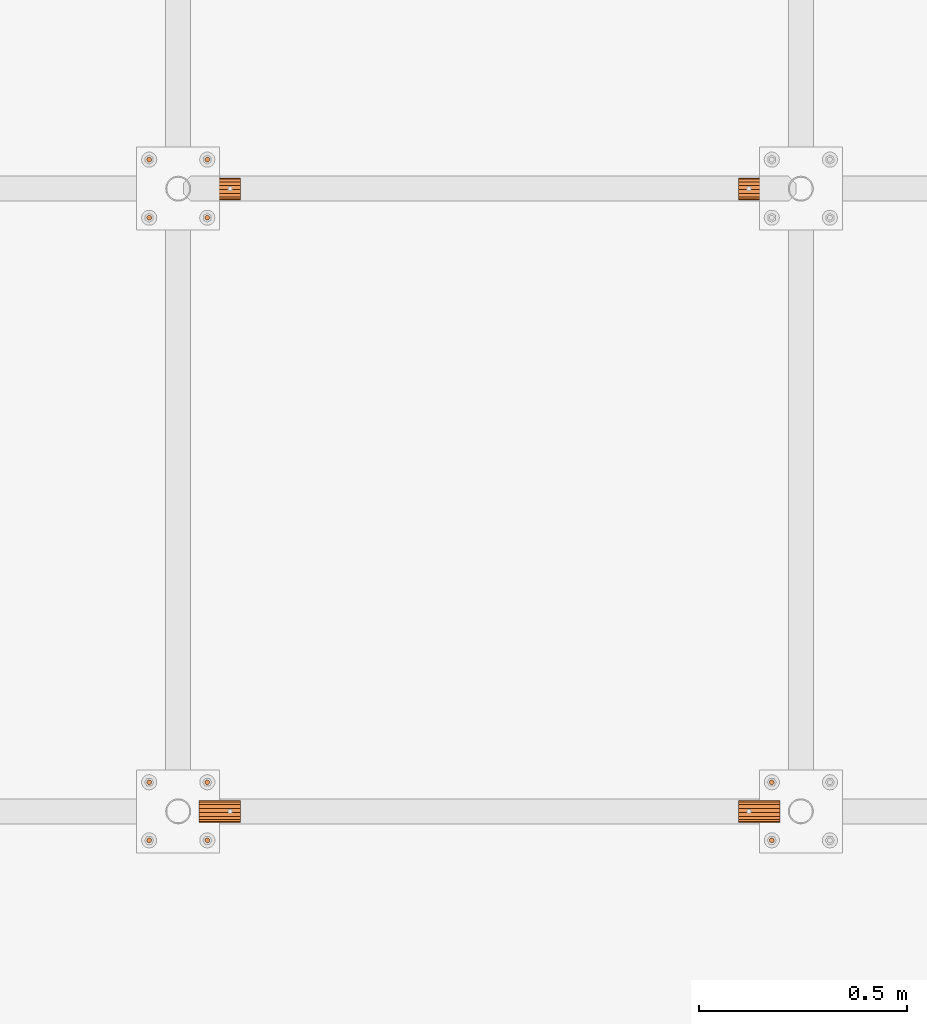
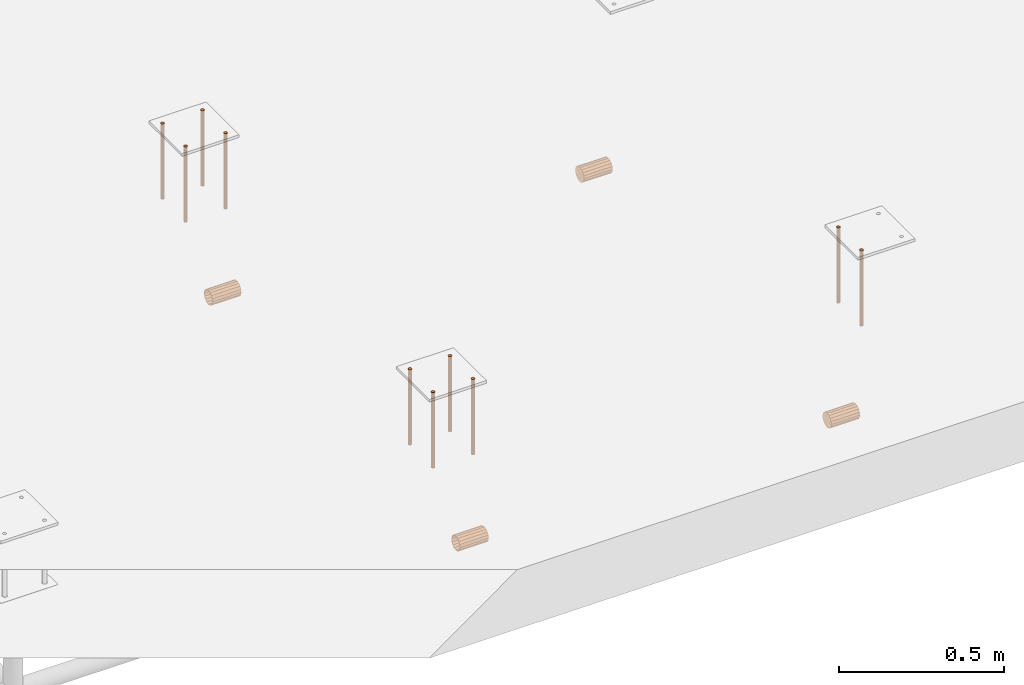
# One storey, part 16 of 30: 14 proxies.
"""IFC2X3 building model written with IfcOpenShell, lengths in millimetres."""

from ifc_helpers import new_model, entity, si_unit, converted_unit, origin_with_axes, place, context, project, spatial, faceted_brep, material, element, save


model = new_model("IFC2X3")

# Units and contexts
model_context = context("Model", 3, precision=1e-09, world=origin_with_axes())
ifc_project = project(units=[si_unit("LENGTHUNIT", "METRE", prefix="MILLI"), si_unit("AREAUNIT", "SQUARE_METRE"), si_unit("VOLUMEUNIT", "CUBIC_METRE"), converted_unit("PLANEANGLEUNIT", "DEGREE", entity("IfcPlaneAngleMeasure", 0.01745329), si_unit("PLANEANGLEUNIT", "RADIAN"), dimensions=[0, 0, 0, 0, 0, 0, 0])], contexts=[model_context])

# Site, building, storey
site_placement = place(None, origin_with_axes())
site = spatial("IfcSite", under=ifc_project, at=site_placement, Name="M?nsinger Stra?e, 81477 M?nchen", CompositionType="ELEMENT")
building_placement = place(site_placement, origin_with_axes())
building = spatial("IfcBuilding", under=site, at=building_placement, Name="Struktur 1", CompositionType="ELEMENT")
storey_placement = place(building_placement, origin_with_axes())
storey = spatial("IfcBuildingStorey", under=building, at=storey_placement, Name="Default Storey", CompositionType="ELEMENT", Elevation=0.0)

# Proxies
ifc_material_1 = material(Name="S235JR")
proxy_1_placement = place(None, origin_with_axes())
element("IfcBuildingElementProxy", 1, at=proxy_1_placement, inside=storey, material=ifc_material_1, ObjectType="-", context=model_context, shape_type="Brep", body=[
    faceted_brep([(7256.315117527, 1517.557789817, 6105.084700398), (7256.315117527, 1514.006567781, 6095.917939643), (7256.315117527, 1507.383735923, 6088.65303917), (7256.315117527, 1498.583744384, 6084.271164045), (7256.315117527, 1488.795080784, 6083.364110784), (7256.315117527, 1479.339758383, 6086.054381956), (7256.315117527, 1471.494770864, 6091.978641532), (7256.315117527, 1466.319627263, 6100.336785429), (7256.315117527, 1464.5132594, 6110.0), (7256.315117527, 1466.319627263, 6119.663214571), (7256.315117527, 1471.494770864, 6128.021358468), (7256.315117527, 1479.339758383, 6133.945618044), (7256.315117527, 1488.795080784, 6136.635889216), (7256.315117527, 1498.583744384, 6135.728835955), (7256.315117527, 1507.383735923, 6131.34696083), (7256.315117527, 1514.006567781, 6124.082060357), (7256.315117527, 1517.557789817, 6114.915299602), (7256.315117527, 1516.2632594, 6110.0), (7356.315117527, 1516.2632594, 6110.0), (7356.315117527, 1514.360247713, 6119.567085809), (7256.315117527, 1514.360247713, 6119.567085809), (7356.315117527, 1517.557789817, 6114.915299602), (7356.315117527, 1517.557789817, 6105.084700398), (7256.315117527, 1514.360247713, 6100.432914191), (7356.315117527, 1514.360247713, 6100.432914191), (7356.315117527, 1514.006567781, 6124.082060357), (7356.315117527, 1507.383735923, 6131.34696083), (7356.315117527, 1498.583744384, 6135.728835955), (7356.315117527, 1488.795080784, 6136.635889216), (7356.315117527, 1479.339758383, 6133.945618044), (7356.315117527, 1471.494770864, 6128.021358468), (7356.315117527, 1466.319627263, 6119.663214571), (7356.315117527, 1464.5132594, 6110.0), (7356.315117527, 1466.319627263, 6100.336785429), (7356.315117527, 1471.494770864, 6091.978641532), (7356.315117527, 1479.339758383, 6086.054381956), (7356.315117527, 1488.795080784, 6083.364110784), (7356.315117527, 1498.583744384, 6084.271164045), (7356.315117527, 1507.383735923, 6088.65303917), (7356.315117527, 1514.006567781, 6095.917939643), (7356.315117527, 1508.94092893, 6092.32233047), (7356.315117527, 1500.830345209, 6086.903011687), (7356.315117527, 1491.2632594, 6085.0), (7356.315117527, 1481.696173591, 6086.903011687), (7356.315117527, 1473.58558987, 6092.32233047), (7356.315117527, 1468.166271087, 6100.432914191), (7356.315117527, 1466.2632594, 6110.0), (7356.315117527, 1468.166271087, 6119.567085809), (7356.315117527, 1473.58558987, 6127.67766953), (7356.315117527, 1481.696173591, 6133.096988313), (7356.315117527, 1491.2632594, 6135.0), (7356.315117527, 1500.830345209, 6133.096988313), (7356.315117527, 1508.94092893, 6127.67766953), (7256.315117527, 1508.94092893, 6127.67766953), (7256.315117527, 1508.94092893, 6092.32233047), (7256.315117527, 1500.830345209, 6133.096988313), (7256.315117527, 1500.830345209, 6086.903011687), (7256.315117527, 1491.2632594, 6135.0), (7256.315117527, 1491.2632594, 6085.0), (7256.315117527, 1481.696173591, 6133.096988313), (7256.315117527, 1481.696173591, 6086.903011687), (7256.315117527, 1473.58558987, 6127.67766953), (7256.315117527, 1473.58558987, 6092.32233047), (7256.315117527, 1468.166271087, 6119.567085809), (7256.315117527, 1468.166271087, 6100.432914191), (7256.315117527, 1466.2632594, 6110.0)], [[[0, 1, 2, 3, 4, 5, 6, 7, 8, 9, 10, 11, 12, 13, 14, 15, 16]], [[17, 18, 19, 20]], [[0, 16, 21, 22]], [[18, 17, 23, 24]], [[22, 21, 25, 26, 27, 28, 29, 30, 31, 32, 33, 34, 35, 36, 37, 38, 39], [24, 40, 41, 42, 43, 44, 45, 46, 47, 48, 49, 50, 51, 52, 19, 18]], [[25, 21, 16, 15]], [[1, 0, 22, 39]], [[20, 19, 52, 53]], [[24, 23, 54, 40]], [[26, 25, 15, 14]], [[2, 1, 39, 38]], [[53, 52, 51, 55]], [[40, 54, 56, 41]], [[27, 26, 14, 13]], [[3, 2, 38, 37]], [[55, 51, 50, 57]], [[41, 56, 58, 42]], [[28, 27, 13, 12]], [[4, 3, 37, 36]], [[57, 50, 49, 59]], [[42, 58, 60, 43]], [[29, 28, 12, 11]], [[5, 4, 36, 35]], [[59, 49, 48, 61]], [[43, 60, 62, 44]], [[30, 29, 11, 10]], [[6, 5, 35, 34]], [[61, 48, 47, 63]], [[44, 62, 64, 45]], [[31, 30, 10, 9]], [[7, 6, 34, 33]], [[63, 47, 46, 65]], [[45, 64, 65, 46]], [[32, 31, 9, 8]], [[8, 7, 33, 32]]]),
])
proxy_2_placement = place(None, origin_with_axes())
element("IfcBuildingElementProxy", 2, at=proxy_2_placement, inside=storey, material=ifc_material_1, ObjectType="-", context=model_context, shape_type="Brep", body=[
    faceted_brep([(6056.315117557, 1514.006567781, 6095.917939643), (6056.315117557, 1517.557789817, 6105.084700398), (6056.315117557, 1517.557789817, 6114.915299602), (6056.315117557, 1514.006567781, 6124.082060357), (6056.315117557, 1507.383735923, 6131.34696083), (6056.315117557, 1498.583744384, 6135.728835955), (6056.315117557, 1488.795080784, 6136.635889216), (6056.315117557, 1479.339758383, 6133.945618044), (6056.315117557, 1471.494770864, 6128.021358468), (6056.315117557, 1466.319627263, 6119.663214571), (6056.315117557, 1464.5132594, 6110.0), (6056.315117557, 1466.319627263, 6100.336785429), (6056.315117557, 1471.494770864, 6091.978641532), (6056.315117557, 1479.339758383, 6086.054381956), (6056.315117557, 1488.795080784, 6083.364110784), (6056.315117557, 1498.583744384, 6084.271164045), (6056.315117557, 1507.383735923, 6088.65303917), (6056.315117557, 1516.2632594, 6110.0), (6056.315117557, 1514.360247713, 6100.432914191), (6056.315117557, 1508.94092893, 6092.32233047), (6056.315117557, 1500.830345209, 6086.903011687), (6056.315117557, 1491.2632594, 6085.0), (6056.315117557, 1481.696173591, 6086.903011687), (6056.315117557, 1473.58558987, 6092.32233047), (6056.315117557, 1468.166271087, 6100.432914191), (6056.315117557, 1466.2632594, 6110.0), (6056.315117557, 1468.166271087, 6119.567085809), (6056.315117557, 1473.58558987, 6127.67766953), (6056.315117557, 1481.696173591, 6133.096988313), (6056.315117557, 1491.2632594, 6135.0), (6056.315117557, 1500.830345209, 6133.096988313), (6056.315117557, 1508.94092893, 6127.67766953), (6056.315117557, 1514.360247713, 6119.567085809), (5956.315117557, 1516.2632594, 6110.0), (5956.315117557, 1514.360247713, 6119.567085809), (5956.315117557, 1517.557789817, 6105.084700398), (5956.315117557, 1517.557789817, 6114.915299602), (5956.315117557, 1514.360247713, 6100.432914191), (5956.315117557, 1514.006567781, 6095.917939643), (5956.315117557, 1507.383735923, 6088.65303917), (5956.315117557, 1498.583744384, 6084.271164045), (5956.315117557, 1488.795080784, 6083.364110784), (5956.315117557, 1479.339758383, 6086.054381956), (5956.315117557, 1471.494770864, 6091.978641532), (5956.315117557, 1466.319627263, 6100.336785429), (5956.315117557, 1464.5132594, 6110.0), (5956.315117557, 1466.319627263, 6119.663214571), (5956.315117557, 1471.494770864, 6128.021358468), (5956.315117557, 1479.339758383, 6133.945618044), (5956.315117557, 1488.795080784, 6136.635889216), (5956.315117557, 1498.583744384, 6135.728835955), (5956.315117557, 1507.383735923, 6131.34696083), (5956.315117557, 1514.006567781, 6124.082060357), (5956.315117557, 1508.94092893, 6092.32233047), (5956.315117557, 1508.94092893, 6127.67766953), (5956.315117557, 1500.830345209, 6133.096988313), (5956.315117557, 1491.2632594, 6135.0), (5956.315117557, 1481.696173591, 6133.096988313), (5956.315117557, 1473.58558987, 6127.67766953), (5956.315117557, 1468.166271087, 6119.567085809), (5956.315117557, 1466.2632594, 6110.0), (5956.315117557, 1468.166271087, 6100.432914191), (5956.315117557, 1473.58558987, 6092.32233047), (5956.315117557, 1481.696173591, 6086.903011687), (5956.315117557, 1491.2632594, 6085.0), (5956.315117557, 1500.830345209, 6086.903011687)], [[[0, 1, 2, 3, 4, 5, 6, 7, 8, 9, 10, 11, 12, 13, 14, 15, 16], [17, 18, 19, 20, 21, 22, 23, 24, 25, 26, 27, 28, 29, 30, 31, 32]], [[33, 17, 32, 34]], [[2, 1, 35, 36]], [[17, 33, 37, 18]], [[35, 38, 39, 40, 41, 42, 43, 44, 45, 46, 47, 48, 49, 50, 51, 52, 36], [53, 37, 33, 34, 54, 55, 56, 57, 58, 59, 60, 61, 62, 63, 64, 65]], [[36, 52, 3, 2]], [[1, 0, 38, 35]], [[34, 32, 31, 54]], [[18, 37, 53, 19]], [[52, 51, 4, 3]], [[0, 16, 39, 38]], [[54, 31, 30, 55]], [[19, 53, 65, 20]], [[51, 50, 5, 4]], [[16, 15, 40, 39]], [[55, 30, 29, 56]], [[20, 65, 64, 21]], [[50, 49, 6, 5]], [[15, 14, 41, 40]], [[56, 29, 28, 57]], [[21, 64, 63, 22]], [[49, 48, 7, 6]], [[14, 13, 42, 41]], [[57, 28, 27, 58]], [[22, 63, 62, 23]], [[48, 47, 8, 7]], [[13, 12, 43, 42]], [[58, 27, 26, 59]], [[23, 62, 61, 24]], [[47, 46, 9, 8]], [[12, 11, 44, 43]], [[59, 26, 25, 60]], [[24, 61, 60, 25]], [[46, 45, 10, 9]], [[11, 10, 45, 44]]]),
])
proxy_3_placement = place(None, origin_with_axes())
element("IfcBuildingElementProxy", 3, at=proxy_3_placement, inside=storey, material=ifc_material_1, ObjectType="-", context=model_context, shape_type="Brep", body=[
    faceted_brep([(6056.315117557, 3014.006567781, 6095.917939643), (6056.315117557, 3017.557789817, 6105.084700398), (6056.315117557, 3017.557789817, 6114.915299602), (6056.315117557, 3014.006567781, 6124.082060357), (6056.315117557, 3007.383735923, 6131.34696083), (6056.315117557, 2998.583744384, 6135.728835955), (6056.315117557, 2988.795080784, 6136.635889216), (6056.315117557, 2979.339758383, 6133.945618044), (6056.315117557, 2971.494770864, 6128.021358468), (6056.315117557, 2966.319627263, 6119.663214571), (6056.315117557, 2964.5132594, 6110.0), (6056.315117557, 2966.319627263, 6100.336785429), (6056.315117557, 2971.494770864, 6091.978641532), (6056.315117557, 2979.339758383, 6086.054381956), (6056.315117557, 2988.795080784, 6083.364110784), (6056.315117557, 2998.583744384, 6084.271164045), (6056.315117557, 3007.383735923, 6088.65303917), (6056.315117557, 3016.2632594, 6110.0), (6056.315117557, 3014.360247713, 6100.432914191), (6056.315117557, 3008.94092893, 6092.32233047), (6056.315117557, 3000.830345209, 6086.903011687), (6056.315117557, 2991.2632594, 6085.0), (6056.315117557, 2981.696173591, 6086.903011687), (6056.315117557, 2973.58558987, 6092.32233047), (6056.315117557, 2968.166271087, 6100.432914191), (6056.315117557, 2966.2632594, 6110.0), (6056.315117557, 2968.166271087, 6119.567085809), (6056.315117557, 2973.58558987, 6127.67766953), (6056.315117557, 2981.696173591, 6133.096988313), (6056.315117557, 2991.2632594, 6135.0), (6056.315117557, 3000.830345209, 6133.096988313), (6056.315117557, 3008.94092893, 6127.67766953), (6056.315117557, 3014.360247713, 6119.567085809), (5956.315117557, 3016.2632594, 6110.0), (5956.315117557, 3014.360247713, 6119.567085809), (5956.315117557, 3017.557789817, 6105.084700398), (5956.315117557, 3017.557789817, 6114.915299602), (5956.315117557, 3014.360247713, 6100.432914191), (5956.315117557, 3014.006567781, 6095.917939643), (5956.315117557, 3007.383735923, 6088.65303917), (5956.315117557, 2998.583744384, 6084.271164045), (5956.315117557, 2988.795080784, 6083.364110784), (5956.315117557, 2979.339758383, 6086.054381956), (5956.315117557, 2971.494770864, 6091.978641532), (5956.315117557, 2966.319627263, 6100.336785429), (5956.315117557, 2964.5132594, 6110.0), (5956.315117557, 2966.319627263, 6119.663214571), (5956.315117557, 2971.494770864, 6128.021358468), (5956.315117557, 2979.339758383, 6133.945618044), (5956.315117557, 2988.795080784, 6136.635889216), (5956.315117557, 2998.583744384, 6135.728835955), (5956.315117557, 3007.383735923, 6131.34696083), (5956.315117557, 3014.006567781, 6124.082060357), (5956.315117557, 3008.94092893, 6092.32233047), (5956.315117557, 3008.94092893, 6127.67766953), (5956.315117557, 3000.830345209, 6133.096988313), (5956.315117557, 2991.2632594, 6135.0), (5956.315117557, 2981.696173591, 6133.096988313), (5956.315117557, 2973.58558987, 6127.67766953), (5956.315117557, 2968.166271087, 6119.567085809), (5956.315117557, 2966.2632594, 6110.0), (5956.315117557, 2968.166271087, 6100.432914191), (5956.315117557, 2973.58558987, 6092.32233047), (5956.315117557, 2981.696173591, 6086.903011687), (5956.315117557, 2991.2632594, 6085.0), (5956.315117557, 3000.830345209, 6086.903011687)], [[[0, 1, 2, 3, 4, 5, 6, 7, 8, 9, 10, 11, 12, 13, 14, 15, 16], [17, 18, 19, 20, 21, 22, 23, 24, 25, 26, 27, 28, 29, 30, 31, 32]], [[33, 17, 32, 34]], [[2, 1, 35, 36]], [[17, 33, 37, 18]], [[35, 38, 39, 40, 41, 42, 43, 44, 45, 46, 47, 48, 49, 50, 51, 52, 36], [53, 37, 33, 34, 54, 55, 56, 57, 58, 59, 60, 61, 62, 63, 64, 65]], [[36, 52, 3, 2]], [[1, 0, 38, 35]], [[34, 32, 31, 54]], [[18, 37, 53, 19]], [[52, 51, 4, 3]], [[0, 16, 39, 38]], [[54, 31, 30, 55]], [[19, 53, 65, 20]], [[51, 50, 5, 4]], [[16, 15, 40, 39]], [[55, 30, 29, 56]], [[20, 65, 64, 21]], [[50, 49, 6, 5]], [[15, 14, 41, 40]], [[56, 29, 28, 57]], [[21, 64, 63, 22]], [[49, 48, 7, 6]], [[14, 13, 42, 41]], [[57, 28, 27, 58]], [[22, 63, 62, 23]], [[48, 47, 8, 7]], [[13, 12, 43, 42]], [[58, 27, 26, 59]], [[23, 62, 61, 24]], [[47, 46, 9, 8]], [[12, 11, 44, 43]], [[59, 26, 25, 60]], [[24, 61, 60, 25]], [[46, 45, 10, 9]], [[11, 10, 45, 44]]]),
])
proxy_4_placement = place(None, origin_with_axes())
element("IfcBuildingElementProxy", 4, at=proxy_4_placement, inside=storey, material=ifc_material_1, ObjectType="-", context=model_context, shape_type="Brep", body=[
    faceted_brep([(7256.315117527, 3017.557789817, 6105.084700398), (7256.315117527, 3014.006567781, 6095.917939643), (7256.315117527, 3007.383735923, 6088.65303917), (7256.315117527, 2998.583744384, 6084.271164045), (7256.315117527, 2988.795080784, 6083.364110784), (7256.315117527, 2979.339758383, 6086.054381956), (7256.315117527, 2971.494770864, 6091.978641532), (7256.315117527, 2966.319627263, 6100.336785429), (7256.315117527, 2964.5132594, 6110.0), (7256.315117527, 2966.319627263, 6119.663214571), (7256.315117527, 2971.494770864, 6128.021358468), (7256.315117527, 2979.339758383, 6133.945618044), (7256.315117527, 2988.795080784, 6136.635889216), (7256.315117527, 2998.583744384, 6135.728835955), (7256.315117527, 3007.383735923, 6131.34696083), (7256.315117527, 3014.006567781, 6124.082060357), (7256.315117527, 3017.557789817, 6114.915299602), (7256.315117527, 3016.2632594, 6110.0), (7356.315117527, 3016.2632594, 6110.0), (7356.315117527, 3014.360247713, 6119.567085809), (7256.315117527, 3014.360247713, 6119.567085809), (7356.315117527, 3017.557789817, 6114.915299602), (7356.315117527, 3017.557789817, 6105.084700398), (7256.315117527, 3014.360247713, 6100.432914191), (7356.315117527, 3014.360247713, 6100.432914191), (7356.315117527, 3014.006567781, 6124.082060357), (7356.315117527, 3007.383735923, 6131.34696083), (7356.315117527, 2998.583744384, 6135.728835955), (7356.315117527, 2988.795080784, 6136.635889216), (7356.315117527, 2979.339758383, 6133.945618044), (7356.315117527, 2971.494770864, 6128.021358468), (7356.315117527, 2966.319627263, 6119.663214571), (7356.315117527, 2964.5132594, 6110.0), (7356.315117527, 2966.319627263, 6100.336785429), (7356.315117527, 2971.494770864, 6091.978641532), (7356.315117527, 2979.339758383, 6086.054381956), (7356.315117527, 2988.795080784, 6083.364110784), (7356.315117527, 2998.583744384, 6084.271164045), (7356.315117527, 3007.383735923, 6088.65303917), (7356.315117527, 3014.006567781, 6095.917939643), (7356.315117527, 3008.94092893, 6092.32233047), (7356.315117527, 3000.830345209, 6086.903011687), (7356.315117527, 2991.2632594, 6085.0), (7356.315117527, 2981.696173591, 6086.903011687), (7356.315117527, 2973.58558987, 6092.32233047), (7356.315117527, 2968.166271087, 6100.432914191), (7356.315117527, 2966.2632594, 6110.0), (7356.315117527, 2968.166271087, 6119.567085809), (7356.315117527, 2973.58558987, 6127.67766953), (7356.315117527, 2981.696173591, 6133.096988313), (7356.315117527, 2991.2632594, 6135.0), (7356.315117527, 3000.830345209, 6133.096988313), (7356.315117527, 3008.94092893, 6127.67766953), (7256.315117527, 3008.94092893, 6127.67766953), (7256.315117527, 3008.94092893, 6092.32233047), (7256.315117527, 3000.830345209, 6133.096988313), (7256.315117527, 3000.830345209, 6086.903011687), (7256.315117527, 2991.2632594, 6135.0), (7256.315117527, 2991.2632594, 6085.0), (7256.315117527, 2981.696173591, 6133.096988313), (7256.315117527, 2981.696173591, 6086.903011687), (7256.315117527, 2973.58558987, 6127.67766953), (7256.315117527, 2973.58558987, 6092.32233047), (7256.315117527, 2968.166271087, 6119.567085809), (7256.315117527, 2968.166271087, 6100.432914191), (7256.315117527, 2966.2632594, 6110.0)], [[[0, 1, 2, 3, 4, 5, 6, 7, 8, 9, 10, 11, 12, 13, 14, 15, 16]], [[17, 18, 19, 20]], [[0, 16, 21, 22]], [[18, 17, 23, 24]], [[22, 21, 25, 26, 27, 28, 29, 30, 31, 32, 33, 34, 35, 36, 37, 38, 39], [24, 40, 41, 42, 43, 44, 45, 46, 47, 48, 49, 50, 51, 52, 19, 18]], [[25, 21, 16, 15]], [[1, 0, 22, 39]], [[20, 19, 52, 53]], [[24, 23, 54, 40]], [[26, 25, 15, 14]], [[2, 1, 39, 38]], [[53, 52, 51, 55]], [[40, 54, 56, 41]], [[27, 26, 14, 13]], [[3, 2, 38, 37]], [[55, 51, 50, 57]], [[41, 56, 58, 42]], [[28, 27, 13, 12]], [[4, 3, 37, 36]], [[57, 50, 49, 59]], [[42, 58, 60, 43]], [[29, 28, 12, 11]], [[5, 4, 36, 35]], [[59, 49, 48, 61]], [[43, 60, 62, 44]], [[30, 29, 11, 10]], [[6, 5, 35, 34]], [[61, 48, 47, 63]], [[44, 62, 64, 45]], [[31, 30, 10, 9]], [[7, 6, 34, 33]], [[63, 47, 46, 65]], [[45, 64, 65, 46]], [[32, 31, 9, 8]], [[8, 7, 33, 32]]]),
])
ifc_material_2 = material(Name="Kein")
proxy_5_placement = place(None, origin_with_axes())
element("IfcBuildingElementProxy", 5, at=proxy_5_placement, inside=storey, material=ifc_material_2, ObjectType="-", context=model_context, shape_type="Brep", body=[
    faceted_brep([(5976.315117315, 3055.2632594, 6475.0), (5976.315117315, 3055.2632594, 6755.0), (5973.315117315, 3056.067106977, 6755.0), (5973.315117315, 3056.067106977, 6475.0), (5979.315117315, 3056.067106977, 6475.0), (5979.315117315, 3056.067106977, 6755.0), (5979.315117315, 3066.459411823, 6475.0), (5981.511269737, 3064.2632594, 6475.0), (5982.315117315, 3061.2632594, 6475.0), (5981.511269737, 3058.2632594, 6475.0), (5971.118964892, 3058.2632594, 6475.0), (5970.315117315, 3061.2632594, 6475.0), (5971.118964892, 3064.2632594, 6475.0), (5973.315117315, 3066.459411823, 6475.0), (5976.315117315, 3067.2632594, 6475.0), (5973.315117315, 3066.459411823, 6755.0), (5971.118964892, 3064.2632594, 6755.0), (5970.315117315, 3061.2632594, 6755.0), (5971.118964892, 3058.2632594, 6755.0), (5981.511269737, 3058.2632594, 6755.0), (5982.315117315, 3061.2632594, 6755.0), (5981.511269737, 3064.2632594, 6755.0), (5979.315117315, 3066.459411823, 6755.0), (5976.315117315, 3067.2632594, 6755.0)], [[[0, 1, 2, 3]], [[1, 0, 4, 5]], [[6, 7, 8, 9, 4, 0, 3, 10, 11, 12, 13, 14]], [[15, 16, 17, 18, 2, 1, 5, 19, 20, 21, 22, 23]], [[3, 2, 18, 10]], [[5, 4, 9, 19]], [[17, 11, 10, 18]], [[16, 12, 11, 17]], [[19, 9, 8, 20]], [[13, 15, 23, 14]], [[12, 16, 15, 13]], [[14, 23, 22, 6]], [[20, 8, 7, 21]], [[6, 22, 21, 7]]]),
])
proxy_6_placement = place(None, origin_with_axes())
element("IfcBuildingElementProxy", 6, at=proxy_6_placement, inside=storey, material=ifc_material_2, ObjectType="-", context=model_context, shape_type="Brep", body=[
    faceted_brep([(5836.315117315, 3055.2632594, 6475.0), (5836.315117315, 3055.2632594, 6755.0), (5833.315117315, 3056.067106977, 6755.0), (5833.315117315, 3056.067106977, 6475.0), (5839.315117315, 3056.067106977, 6475.0), (5839.315117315, 3056.067106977, 6755.0), (5839.315117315, 3066.459411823, 6475.0), (5841.511269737, 3064.2632594, 6475.0), (5842.315117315, 3061.2632594, 6475.0), (5841.511269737, 3058.2632594, 6475.0), (5831.118964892, 3058.2632594, 6475.0), (5830.315117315, 3061.2632594, 6475.0), (5831.118964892, 3064.2632594, 6475.0), (5833.315117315, 3066.459411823, 6475.0), (5836.315117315, 3067.2632594, 6475.0), (5833.315117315, 3066.459411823, 6755.0), (5831.118964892, 3064.2632594, 6755.0), (5830.315117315, 3061.2632594, 6755.0), (5831.118964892, 3058.2632594, 6755.0), (5841.511269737, 3058.2632594, 6755.0), (5842.315117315, 3061.2632594, 6755.0), (5841.511269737, 3064.2632594, 6755.0), (5839.315117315, 3066.459411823, 6755.0), (5836.315117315, 3067.2632594, 6755.0)], [[[0, 1, 2, 3]], [[1, 0, 4, 5]], [[6, 7, 8, 9, 4, 0, 3, 10, 11, 12, 13, 14]], [[15, 16, 17, 18, 2, 1, 5, 19, 20, 21, 22, 23]], [[3, 2, 18, 10]], [[5, 4, 9, 19]], [[17, 11, 10, 18]], [[16, 12, 11, 17]], [[19, 9, 8, 20]], [[13, 15, 23, 14]], [[12, 16, 15, 13]], [[14, 23, 22, 6]], [[20, 8, 7, 21]], [[6, 22, 21, 7]]]),
])
proxy_7_placement = place(None, origin_with_axes())
element("IfcBuildingElementProxy", 7, at=proxy_7_placement, inside=storey, material=ifc_material_2, ObjectType="-", context=model_context, shape_type="Brep", body=[
    faceted_brep([(5976.315117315, 2915.2632594, 6475.0), (5976.315117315, 2915.2632594, 6755.0), (5973.315117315, 2916.067106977, 6755.0), (5973.315117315, 2916.067106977, 6475.0), (5979.315117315, 2916.067106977, 6475.0), (5979.315117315, 2916.067106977, 6755.0), (5979.315117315, 2926.459411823, 6475.0), (5981.511269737, 2924.2632594, 6475.0), (5982.315117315, 2921.2632594, 6475.0), (5981.511269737, 2918.2632594, 6475.0), (5971.118964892, 2918.2632594, 6475.0), (5970.315117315, 2921.2632594, 6475.0), (5971.118964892, 2924.2632594, 6475.0), (5973.315117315, 2926.459411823, 6475.0), (5976.315117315, 2927.2632594, 6475.0), (5973.315117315, 2926.459411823, 6755.0), (5971.118964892, 2924.2632594, 6755.0), (5970.315117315, 2921.2632594, 6755.0), (5971.118964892, 2918.2632594, 6755.0), (5981.511269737, 2918.2632594, 6755.0), (5982.315117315, 2921.2632594, 6755.0), (5981.511269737, 2924.2632594, 6755.0), (5979.315117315, 2926.459411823, 6755.0), (5976.315117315, 2927.2632594, 6755.0)], [[[0, 1, 2, 3]], [[1, 0, 4, 5]], [[6, 7, 8, 9, 4, 0, 3, 10, 11, 12, 13, 14]], [[15, 16, 17, 18, 2, 1, 5, 19, 20, 21, 22, 23]], [[3, 2, 18, 10]], [[5, 4, 9, 19]], [[17, 11, 10, 18]], [[16, 12, 11, 17]], [[19, 9, 8, 20]], [[13, 15, 23, 14]], [[12, 16, 15, 13]], [[14, 23, 22, 6]], [[20, 8, 7, 21]], [[6, 22, 21, 7]]]),
])
proxy_8_placement = place(None, origin_with_axes())
element("IfcBuildingElementProxy", 8, at=proxy_8_placement, inside=storey, material=ifc_material_2, ObjectType="-", context=model_context, shape_type="Brep", body=[
    faceted_brep([(5836.315117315, 2915.2632594, 6475.0), (5836.315117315, 2915.2632594, 6755.0), (5833.315117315, 2916.067106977, 6755.0), (5833.315117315, 2916.067106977, 6475.0), (5839.315117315, 2916.067106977, 6475.0), (5839.315117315, 2916.067106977, 6755.0), (5839.315117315, 2926.459411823, 6475.0), (5841.511269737, 2924.2632594, 6475.0), (5842.315117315, 2921.2632594, 6475.0), (5841.511269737, 2918.2632594, 6475.0), (5831.118964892, 2918.2632594, 6475.0), (5830.315117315, 2921.2632594, 6475.0), (5831.118964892, 2924.2632594, 6475.0), (5833.315117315, 2926.459411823, 6475.0), (5836.315117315, 2927.2632594, 6475.0), (5833.315117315, 2926.459411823, 6755.0), (5831.118964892, 2924.2632594, 6755.0), (5830.315117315, 2921.2632594, 6755.0), (5831.118964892, 2918.2632594, 6755.0), (5841.511269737, 2918.2632594, 6755.0), (5842.315117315, 2921.2632594, 6755.0), (5841.511269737, 2924.2632594, 6755.0), (5839.315117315, 2926.459411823, 6755.0), (5836.315117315, 2927.2632594, 6755.0)], [[[0, 1, 2, 3]], [[1, 0, 4, 5]], [[6, 7, 8, 9, 4, 0, 3, 10, 11, 12, 13, 14]], [[15, 16, 17, 18, 2, 1, 5, 19, 20, 21, 22, 23]], [[3, 2, 18, 10]], [[5, 4, 9, 19]], [[17, 11, 10, 18]], [[16, 12, 11, 17]], [[19, 9, 8, 20]], [[13, 15, 23, 14]], [[12, 16, 15, 13]], [[14, 23, 22, 6]], [[20, 8, 7, 21]], [[6, 22, 21, 7]]]),
])
proxy_9_placement = place(None, origin_with_axes())
element("IfcBuildingElementProxy", 9, at=proxy_9_placement, inside=storey, material=ifc_material_2, ObjectType="-", context=model_context, shape_type="Brep", body=[
    faceted_brep([(5970.315117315, 1561.2632594, 6755.0), (5970.315117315, 1561.2632594, 6475.0), (5971.118964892, 1558.2632594, 6475.0), (5971.118964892, 1558.2632594, 6755.0), (5971.118964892, 1564.2632594, 6755.0), (5971.118964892, 1564.2632594, 6475.0), (5979.315117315, 1566.459411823, 6475.0), (5981.511269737, 1564.2632594, 6475.0), (5982.315117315, 1561.2632594, 6475.0), (5981.511269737, 1558.2632594, 6475.0), (5979.315117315, 1556.067106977, 6475.0), (5976.315117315, 1555.2632594, 6475.0), (5973.315117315, 1556.067106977, 6475.0), (5973.315117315, 1566.459411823, 6475.0), (5976.315117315, 1567.2632594, 6475.0), (5979.315117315, 1556.067106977, 6755.0), (5981.511269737, 1558.2632594, 6755.0), (5982.315117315, 1561.2632594, 6755.0), (5981.511269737, 1564.2632594, 6755.0), (5979.315117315, 1566.459411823, 6755.0), (5976.315117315, 1567.2632594, 6755.0), (5973.315117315, 1566.459411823, 6755.0), (5973.315117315, 1556.067106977, 6755.0), (5976.315117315, 1555.2632594, 6755.0)], [[[0, 1, 2, 3]], [[1, 0, 4, 5]], [[6, 7, 8, 9, 10, 11, 12, 2, 1, 5, 13, 14]], [[15, 16, 17, 18, 19, 20, 21, 4, 0, 3, 22, 23]], [[3, 2, 12, 22]], [[5, 4, 21, 13]], [[11, 23, 22, 12]], [[10, 15, 23, 11]], [[13, 21, 20, 14]], [[16, 9, 8, 17]], [[15, 10, 9, 16]], [[17, 8, 7, 18]], [[14, 20, 19, 6]], [[18, 7, 6, 19]]]),
])
proxy_10_placement = place(None, origin_with_axes())
element("IfcBuildingElementProxy", 10, at=proxy_10_placement, inside=storey, material=ifc_material_2, ObjectType="-", context=model_context, shape_type="Brep", body=[
    faceted_brep([(5970.315117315, 1421.2632594, 6755.0), (5970.315117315, 1421.2632594, 6475.0), (5971.118964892, 1418.2632594, 6475.0), (5971.118964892, 1418.2632594, 6755.0), (5971.118964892, 1424.2632594, 6755.0), (5971.118964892, 1424.2632594, 6475.0), (5979.315117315, 1426.459411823, 6475.0), (5981.511269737, 1424.2632594, 6475.0), (5982.315117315, 1421.2632594, 6475.0), (5981.511269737, 1418.2632594, 6475.0), (5979.315117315, 1416.067106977, 6475.0), (5976.315117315, 1415.2632594, 6475.0), (5973.315117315, 1416.067106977, 6475.0), (5973.315117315, 1426.459411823, 6475.0), (5976.315117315, 1427.2632594, 6475.0), (5979.315117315, 1416.067106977, 6755.0), (5981.511269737, 1418.2632594, 6755.0), (5982.315117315, 1421.2632594, 6755.0), (5981.511269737, 1424.2632594, 6755.0), (5979.315117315, 1426.459411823, 6755.0), (5976.315117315, 1427.2632594, 6755.0), (5973.315117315, 1426.459411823, 6755.0), (5973.315117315, 1416.067106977, 6755.0), (5976.315117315, 1415.2632594, 6755.0)], [[[0, 1, 2, 3]], [[1, 0, 4, 5]], [[6, 7, 8, 9, 10, 11, 12, 2, 1, 5, 13, 14]], [[15, 16, 17, 18, 19, 20, 21, 4, 0, 3, 22, 23]], [[3, 2, 12, 22]], [[5, 4, 21, 13]], [[11, 23, 22, 12]], [[10, 15, 23, 11]], [[13, 21, 20, 14]], [[16, 9, 8, 17]], [[15, 10, 9, 16]], [[17, 8, 7, 18]], [[14, 20, 19, 6]], [[18, 7, 6, 19]]]),
])
proxy_11_placement = place(None, origin_with_axes())
element("IfcBuildingElementProxy", 11, at=proxy_11_placement, inside=storey, material=ifc_material_2, ObjectType="-", context=model_context, shape_type="Brep", body=[
    faceted_brep([(5830.315117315, 1561.2632594, 6755.0), (5830.315117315, 1561.2632594, 6475.0), (5831.118964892, 1558.2632594, 6475.0), (5831.118964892, 1558.2632594, 6755.0), (5831.118964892, 1564.2632594, 6755.0), (5831.118964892, 1564.2632594, 6475.0), (5839.315117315, 1566.459411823, 6475.0), (5841.511269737, 1564.2632594, 6475.0), (5842.315117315, 1561.2632594, 6475.0), (5841.511269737, 1558.2632594, 6475.0), (5839.315117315, 1556.067106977, 6475.0), (5836.315117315, 1555.2632594, 6475.0), (5833.315117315, 1556.067106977, 6475.0), (5833.315117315, 1566.459411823, 6475.0), (5836.315117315, 1567.2632594, 6475.0), (5839.315117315, 1556.067106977, 6755.0), (5841.511269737, 1558.2632594, 6755.0), (5842.315117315, 1561.2632594, 6755.0), (5841.511269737, 1564.2632594, 6755.0), (5839.315117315, 1566.459411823, 6755.0), (5836.315117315, 1567.2632594, 6755.0), (5833.315117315, 1566.459411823, 6755.0), (5833.315117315, 1556.067106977, 6755.0), (5836.315117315, 1555.2632594, 6755.0)], [[[0, 1, 2, 3]], [[1, 0, 4, 5]], [[6, 7, 8, 9, 10, 11, 12, 2, 1, 5, 13, 14]], [[15, 16, 17, 18, 19, 20, 21, 4, 0, 3, 22, 23]], [[3, 2, 12, 22]], [[5, 4, 21, 13]], [[11, 23, 22, 12]], [[10, 15, 23, 11]], [[13, 21, 20, 14]], [[16, 9, 8, 17]], [[15, 10, 9, 16]], [[17, 8, 7, 18]], [[14, 20, 19, 6]], [[18, 7, 6, 19]]]),
])
proxy_12_placement = place(None, origin_with_axes())
element("IfcBuildingElementProxy", 12, at=proxy_12_placement, inside=storey, material=ifc_material_2, ObjectType="-", context=model_context, shape_type="Brep", body=[
    faceted_brep([(5830.315117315, 1421.2632594, 6755.0), (5830.315117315, 1421.2632594, 6475.0), (5831.118964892, 1418.2632594, 6475.0), (5831.118964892, 1418.2632594, 6755.0), (5831.118964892, 1424.2632594, 6755.0), (5831.118964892, 1424.2632594, 6475.0), (5839.315117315, 1426.459411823, 6475.0), (5841.511269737, 1424.2632594, 6475.0), (5842.315117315, 1421.2632594, 6475.0), (5841.511269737, 1418.2632594, 6475.0), (5839.315117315, 1416.067106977, 6475.0), (5836.315117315, 1415.2632594, 6475.0), (5833.315117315, 1416.067106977, 6475.0), (5833.315117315, 1426.459411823, 6475.0), (5836.315117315, 1427.2632594, 6475.0), (5839.315117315, 1416.067106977, 6755.0), (5841.511269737, 1418.2632594, 6755.0), (5842.315117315, 1421.2632594, 6755.0), (5841.511269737, 1424.2632594, 6755.0), (5839.315117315, 1426.459411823, 6755.0), (5836.315117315, 1427.2632594, 6755.0), (5833.315117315, 1426.459411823, 6755.0), (5833.315117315, 1416.067106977, 6755.0), (5836.315117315, 1415.2632594, 6755.0)], [[[0, 1, 2, 3]], [[1, 0, 4, 5]], [[6, 7, 8, 9, 10, 11, 12, 2, 1, 5, 13, 14]], [[15, 16, 17, 18, 19, 20, 21, 4, 0, 3, 22, 23]], [[3, 2, 12, 22]], [[5, 4, 21, 13]], [[11, 23, 22, 12]], [[10, 15, 23, 11]], [[13, 21, 20, 14]], [[16, 9, 8, 17]], [[15, 10, 9, 16]], [[17, 8, 7, 18]], [[14, 20, 19, 6]], [[18, 7, 6, 19]]]),
])
proxy_13_placement = place(None, origin_with_axes())
element("IfcBuildingElementProxy", 13, at=proxy_13_placement, inside=storey, material=ifc_material_2, ObjectType="-", context=model_context, shape_type="Brep", body=[
    faceted_brep([(7330.315117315, 1561.2632594, 6755.0), (7330.315117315, 1561.2632594, 6475.0), (7331.118964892, 1558.2632594, 6475.0), (7331.118964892, 1558.2632594, 6755.0), (7331.118964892, 1564.2632594, 6755.0), (7331.118964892, 1564.2632594, 6475.0), (7339.315117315, 1566.459411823, 6475.0), (7341.511269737, 1564.2632594, 6475.0), (7342.315117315, 1561.2632594, 6475.0), (7341.511269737, 1558.2632594, 6475.0), (7339.315117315, 1556.067106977, 6475.0), (7336.315117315, 1555.2632594, 6475.0), (7333.315117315, 1556.067106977, 6475.0), (7333.315117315, 1566.459411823, 6475.0), (7336.315117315, 1567.2632594, 6475.0), (7339.315117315, 1556.067106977, 6755.0), (7341.511269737, 1558.2632594, 6755.0), (7342.315117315, 1561.2632594, 6755.0), (7341.511269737, 1564.2632594, 6755.0), (7339.315117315, 1566.459411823, 6755.0), (7336.315117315, 1567.2632594, 6755.0), (7333.315117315, 1566.459411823, 6755.0), (7333.315117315, 1556.067106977, 6755.0), (7336.315117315, 1555.2632594, 6755.0)], [[[0, 1, 2, 3]], [[1, 0, 4, 5]], [[6, 7, 8, 9, 10, 11, 12, 2, 1, 5, 13, 14]], [[15, 16, 17, 18, 19, 20, 21, 4, 0, 3, 22, 23]], [[3, 2, 12, 22]], [[5, 4, 21, 13]], [[11, 23, 22, 12]], [[10, 15, 23, 11]], [[13, 21, 20, 14]], [[16, 9, 8, 17]], [[15, 10, 9, 16]], [[17, 8, 7, 18]], [[14, 20, 19, 6]], [[18, 7, 6, 19]]]),
])
proxy_14_placement = place(None, origin_with_axes())
element("IfcBuildingElementProxy", 14, at=proxy_14_placement, inside=storey, material=ifc_material_2, ObjectType="-", context=model_context, shape_type="Brep", body=[
    faceted_brep([(7330.315117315, 1421.2632594, 6755.0), (7330.315117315, 1421.2632594, 6475.0), (7331.118964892, 1418.2632594, 6475.0), (7331.118964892, 1418.2632594, 6755.0), (7331.118964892, 1424.2632594, 6755.0), (7331.118964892, 1424.2632594, 6475.0), (7339.315117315, 1426.459411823, 6475.0), (7341.511269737, 1424.2632594, 6475.0), (7342.315117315, 1421.2632594, 6475.0), (7341.511269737, 1418.2632594, 6475.0), (7339.315117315, 1416.067106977, 6475.0), (7336.315117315, 1415.2632594, 6475.0), (7333.315117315, 1416.067106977, 6475.0), (7333.315117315, 1426.459411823, 6475.0), (7336.315117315, 1427.2632594, 6475.0), (7339.315117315, 1416.067106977, 6755.0), (7341.511269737, 1418.2632594, 6755.0), (7342.315117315, 1421.2632594, 6755.0), (7341.511269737, 1424.2632594, 6755.0), (7339.315117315, 1426.459411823, 6755.0), (7336.315117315, 1427.2632594, 6755.0), (7333.315117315, 1426.459411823, 6755.0), (7333.315117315, 1416.067106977, 6755.0), (7336.315117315, 1415.2632594, 6755.0)], [[[0, 1, 2, 3]], [[1, 0, 4, 5]], [[6, 7, 8, 9, 10, 11, 12, 2, 1, 5, 13, 14]], [[15, 16, 17, 18, 19, 20, 21, 4, 0, 3, 22, 23]], [[3, 2, 12, 22]], [[5, 4, 21, 13]], [[11, 23, 22, 12]], [[10, 15, 23, 11]], [[13, 21, 20, 14]], [[16, 9, 8, 17]], [[15, 10, 9, 16]], [[17, 8, 7, 18]], [[14, 20, 19, 6]], [[18, 7, 6, 19]]]),
])

save(model, "model.ifc")
